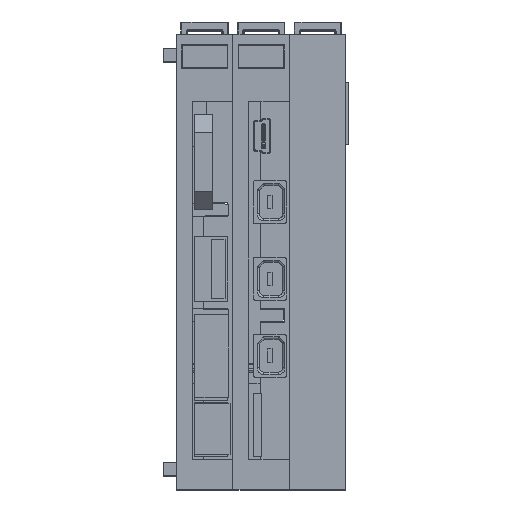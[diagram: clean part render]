
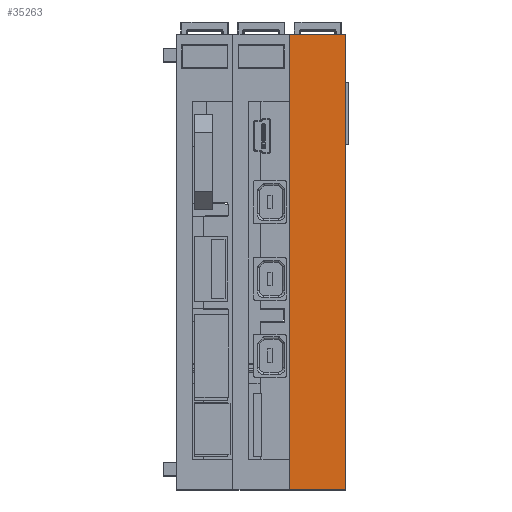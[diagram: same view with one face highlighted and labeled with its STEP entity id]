
A CAD part, top view. The second image highlights one B-rep face of the part: STEP entity #35263.
In plain terms, the highlighted planar face has unit normal (0, 0, 1) as drawn and (1, 0, 0) by its records, which use the part's own axes.
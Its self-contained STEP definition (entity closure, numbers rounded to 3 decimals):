
#245 = PLANE ( 'NONE',  #25560 ) ;
#1076 = EDGE_CURVE ( 'NONE', #13294, #19558, #17547, .T. ) ;
#3290 = ORIENTED_EDGE ( 'NONE', *, *, #34249, .F. ) ;
#3536 = VERTEX_POINT ( 'NONE', #37882 ) ;
#3927 = LINE ( 'NONE', #41391, #45130 ) ;
#6917 = EDGE_CURVE ( 'NONE', #19558, #10928, #7189, .T. ) ;
#7189 = LINE ( 'NONE', #15686, #25967 ) ;
#7291 = CARTESIAN_POINT ( 'NONE',  ( 58.397, -54.473, 0.758 ) ) ;
#10675 = CARTESIAN_POINT ( 'NONE',  ( 58.397, 46.327, -24. ) ) ;
#10928 = VERTEX_POINT ( 'NONE', #10675 ) ;
#11543 = EDGE_CURVE ( 'NONE', #13294, #3536, #24749, .T. ) ;
#11748 = CARTESIAN_POINT ( 'NONE',  ( 58.397, 44.827, -11.5 ) ) ;
#12267 = DIRECTION ( 'NONE',  ( 0., 0., 1. ) ) ;
#12425 = ORIENTED_EDGE ( 'NONE', *, *, #6917, .F. ) ;
#13294 = VERTEX_POINT ( 'NONE', #41359 ) ;
#15028 = FACE_OUTER_BOUND ( 'NONE', #18844, .T. ) ;
#15686 = CARTESIAN_POINT ( 'NONE',  ( 58.397, 46.327, -11.5 ) ) ;
#17505 = DIRECTION ( 'NONE',  ( 0., -1., 0. ) ) ;
#17547 = LINE ( 'NONE', #11748, #28112 ) ;
#18844 = EDGE_LOOP ( 'NONE', ( #3290, #12425, #30336, #40405 ) ) ;
#19558 = VERTEX_POINT ( 'NONE', #30024 ) ;
#24749 = LINE ( 'NONE', #7291, #46000 ) ;
#25560 = AXIS2_PLACEMENT_3D ( 'NONE', #32207, #36231, #12267 ) ;
#25967 = VECTOR ( 'NONE', #39743, 1000. ) ;
#28112 = VECTOR ( 'NONE', #39691, 1000. ) ;
#30024 = CARTESIAN_POINT ( 'NONE',  ( 58.397, 46.327, -11.5 ) ) ;
#30336 = ORIENTED_EDGE ( 'NONE', *, *, #1076, .F. ) ;
#32207 = CARTESIAN_POINT ( 'NONE',  ( 58.397, 43.727, -2. ) ) ;
#34249 = EDGE_CURVE ( 'NONE', #10928, #3536, #3927, .T. ) ;
#35263 = ADVANCED_FACE ( 'NONE', ( #15028 ), #245, .F. ) ;
#36231 = DIRECTION ( 'NONE',  ( -1., 0., 0. ) ) ;
#37882 = CARTESIAN_POINT ( 'NONE',  ( 58.397, -54.473, -24. ) ) ;
#39691 = DIRECTION ( 'NONE',  ( 0., 1., 0. ) ) ;
#39743 = DIRECTION ( 'NONE',  ( 0., 0., -1. ) ) ;
#40405 = ORIENTED_EDGE ( 'NONE', *, *, #11543, .T. ) ;
#41359 = CARTESIAN_POINT ( 'NONE',  ( 58.397, -54.473, -11.5 ) ) ;
#41391 = CARTESIAN_POINT ( 'NONE',  ( 58.397, 46.827, -24. ) ) ;
#45130 = VECTOR ( 'NONE', #17505, 1000. ) ;
#46000 = VECTOR ( 'NONE', #50755, 1000. ) ;
#50755 = DIRECTION ( 'NONE',  ( 0., 0., -1. ) ) ;
